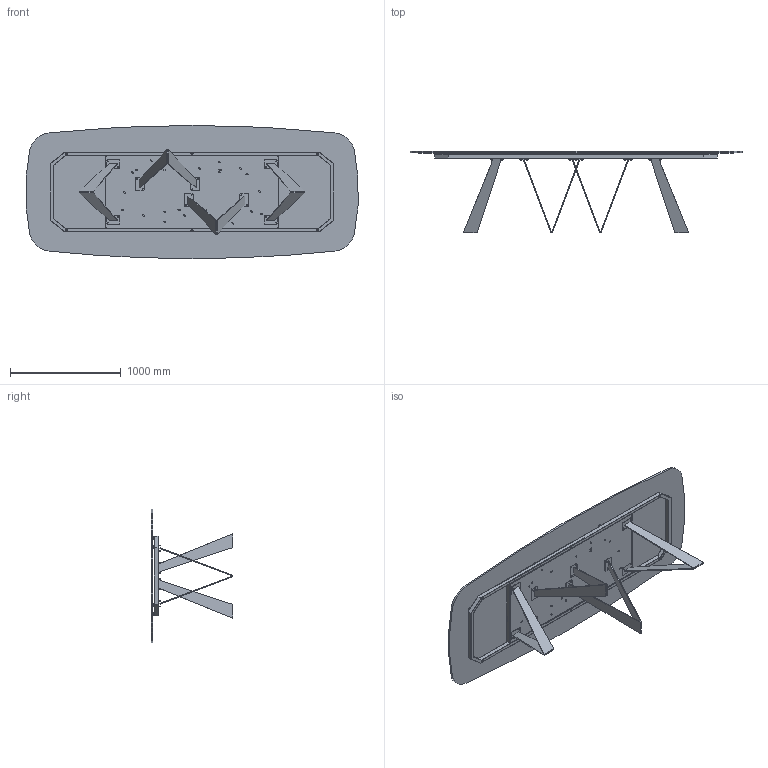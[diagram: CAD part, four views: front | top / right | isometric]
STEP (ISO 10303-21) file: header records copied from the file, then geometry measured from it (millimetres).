
FILE_DESCRIPTION (( 'STEP AP203' ), '1' );
FILE_NAME ('NO50G_Noa_295x120x75h_Glass Shaped.STEP', '2024-08-07T14:23:00', ( '' ), ( '' ), 'SwSTEP 2.0', 'SolidWorks 2022', '' );
FILE_SCHEMA (( 'CONFIG_CONTROL_DESIGN' ));
Length unit declared in the file: millimetre
Products named in the file (14): NO50G_Noa_295x120x75h_Glass Shaped; MAPPA; TTAV07_02-01-VASSOIO TELAIO  PLAI ONDA NOA 300; 434070-00-PIEDINO TPV GOMMA NERO D. 30x8max18; 434070-00-PIEDINO TPV GOMMA NERO D. 30x8max18_filo estetico; NOA000001GMB-00-Piastra Principale gamba NOA_Piatto DX; NOA000000-00-NOA BASE GREZZA; M8xXXmm_M8x20mm; TTAV07_01-04-STRUTTURA TAVOLI PLAI ONDA NOA 300; NOA000001PTRS-00-Piastra rettangoalre con fori; TTAV07-04-TELAIO X TAVOLI PLAI ONDA NOA 300; NOA000001GMB-00-Piastra Principale gamba NOA_Piatto SX; Assieme NOA var 3_noa 300-320; C4XCRXX-00-Piani Sagomati in Cristallo_3000 x 1200
Assembly tree (37 placements, depth 4):
  NO50G_Noa_295x120x75h_Glass Shaped
    C4XCRXX-00-Piani Sagomati in Cristallo_3000 x 1200
    Assieme NOA var 3_noa 300-320
      NOA000000-00-NOA BASE GREZZA  x4
        NOA000001GMB-00-Piastra Principale gamba NOA_Piatto SX
        NOA000001GMB-00-Piastra Principale gamba NOA_Piatto DX
        NOA000001PTRS-00-Piastra rettangoalre con fori
      TTAV07-04-TELAIO X TAVOLI PLAI ONDA NOA 300
        TTAV07_01-04-STRUTTURA TAVOLI PLAI ONDA NOA 300
        TTAV07_02-01-VASSOIO TELAIO  PLAI ONDA NOA 300
    M8xXXmm_M8x20mm  x16
    434070-00-PIEDINO TPV GOMMA NERO D. 30x8max18  x7
    434070-00-PIEDINO TPV GOMMA NERO D. 30x8max18_filo estetico
  MAPPA
Bounding box: 2991.72 x 734.8 x 1200 mm (x, y, z)
Volume: 61610367.4 mm3; surface area: 12249876.3 mm2
Topology: 51 solids, 51 shells, 1165 faces, 2727 edges, 1642 vertices
Faces by surface type: plane 516, cylinder 361, cone 176, torus 96, sphere 16
Entity records: 16631 total; most frequent: DIRECTION 2620, CARTESIAN_POINT 2569, ORIENTED_EDGE 2386, EDGE_CURVE 1193, AXIS2_PLACEMENT_3D 955, VERTEX_POINT 754, VECTOR 710, LINE 710
